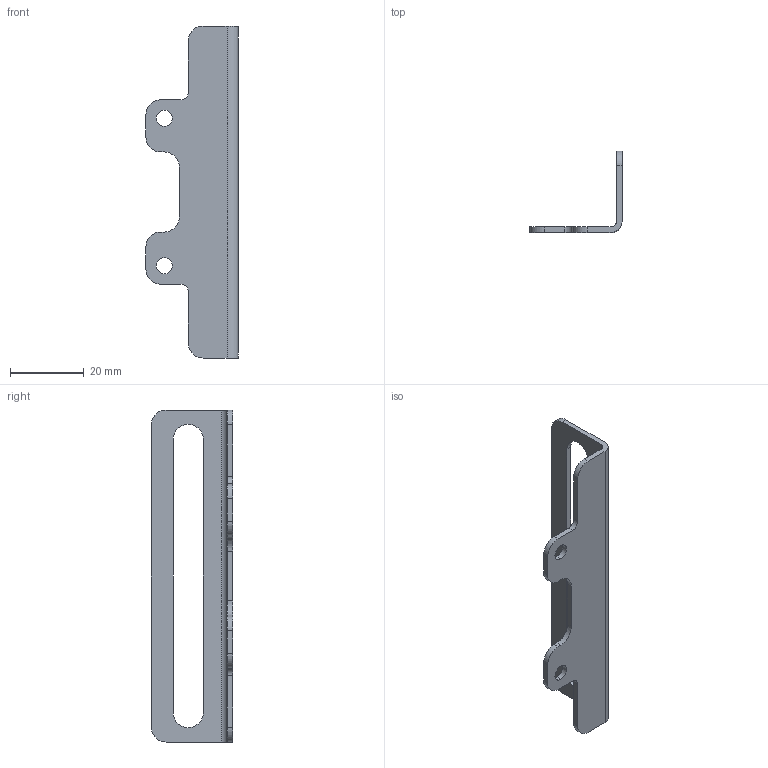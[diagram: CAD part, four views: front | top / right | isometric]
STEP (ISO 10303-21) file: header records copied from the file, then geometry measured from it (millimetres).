
FILE_DESCRIPTION (( 'STEP AP203' ), '1' );
FILE_NAME ('SH2408-SensorhalterM8.STEP', '2016-01-26T13:23:10', ( '' ), ( '' ), 'SwSTEP 2.0', 'SolidWorks 2014', '' );
FILE_SCHEMA (( 'CONFIG_CONTROL_DESIGN' ));
Length unit declared in the file: millimetre
Products named in the file (1): SH2408-SensorhalterM8
Bounding box: 25 x 22 x 90 mm (x, y, z)
Volume: 3963.1 mm3; surface area: 5988.7 mm2
Topology: 1 solids, 1 shells, 39 faces, 111 edges, 74 vertices
Faces by surface type: cylinder 21, plane 18
Entity records: 1376 total; most frequent: DIRECTION 233, CARTESIAN_POINT 225, ORIENTED_EDGE 222, EDGE_CURVE 111, AXIS2_PLACEMENT_3D 82, VERTEX_POINT 74, VECTOR 69, LINE 69
